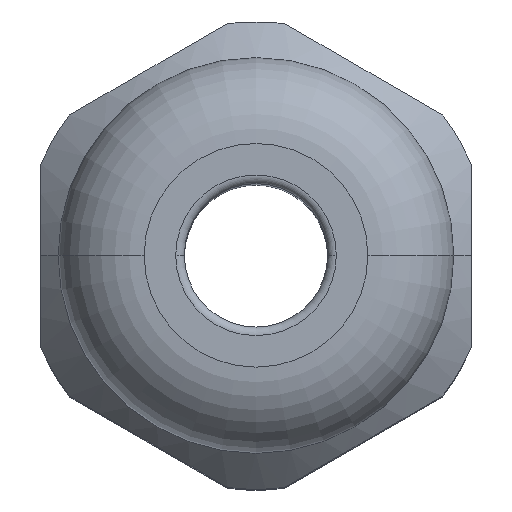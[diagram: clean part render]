
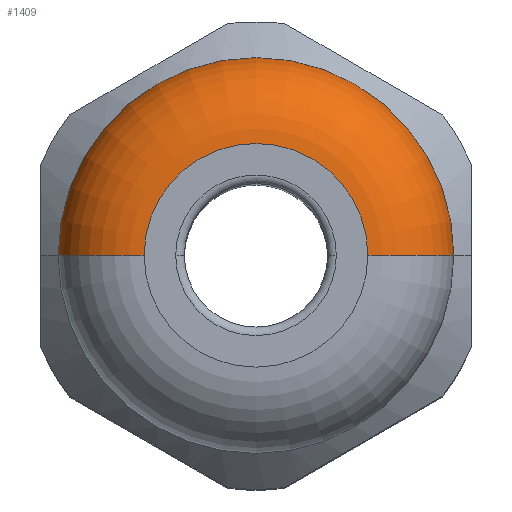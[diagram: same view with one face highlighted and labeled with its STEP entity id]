
A CAD part, top view. The second image highlights one B-rep face of the part: STEP entity #1409.
In plain terms, the highlighted toroidal (fillet/blend) face has major radius 3.9 mm and minor radius 3 mm.
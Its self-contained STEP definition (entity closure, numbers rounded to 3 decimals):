
#1329 = EDGE_CURVE ( 'NONE', #1402, #1414, #2265, .T. ) ;
#1338 = ORIENTED_EDGE ( 'NONE', *, *, #1329, .F. ) ;
#1399 = EDGE_LOOP ( 'NONE', ( #1400, #1410, #1412, #1338 ) ) ;
#1400 = ORIENTED_EDGE ( 'NONE', *, *, #1401, .T. ) ;
#1401 = EDGE_CURVE ( 'NONE', #1402, #1403, #2604, .T. ) ;
#1402 = VERTEX_POINT ( 'NONE', #2599 ) ;
#1403 = VERTEX_POINT ( 'NONE', #2598 ) ;
#1404 = VERTEX_POINT ( 'NONE', #2597 ) ;
#1409 = ADVANCED_FACE ( 'NONE', ( #2586 ), #2585, .T. ) ;
#1410 = ORIENTED_EDGE ( 'NONE', *, *, #1411, .T. ) ;
#1411 = EDGE_CURVE ( 'NONE', #1403, #1404, #2579, .T. ) ;
#1412 = ORIENTED_EDGE ( 'NONE', *, *, #1413, .F. ) ;
#1413 = EDGE_CURVE ( 'NONE', #1414, #1404, #2458, .T. ) ;
#1414 = VERTEX_POINT ( 'NONE', #2453 ) ;
#2261 = DIRECTION ( 'NONE',  ( 0., 0., -1. ) ) ;
#2262 = DIRECTION ( 'NONE',  ( 0., -1., 0. ) ) ;
#2263 = CARTESIAN_POINT ( 'NONE',  ( -3.9, 0., 28. ) ) ;
#2264 = AXIS2_PLACEMENT_3D ( 'NONE', #2263, #2262, #2261 ) ;
#2265 = CIRCLE ( 'NONE', #2264, 3. ) ;
#2453 = CARTESIAN_POINT ( 'NONE',  ( -6.9, 0., 28. ) ) ;
#2454 = DIRECTION ( 'NONE',  ( -1., 0., 0. ) ) ;
#2455 = DIRECTION ( 'NONE',  ( 0., 0., -1. ) ) ;
#2456 = CARTESIAN_POINT ( 'NONE',  ( 0., 0., 28. ) ) ;
#2457 = AXIS2_PLACEMENT_3D ( 'NONE', #2456, #2455, #2454 ) ;
#2458 = CIRCLE ( 'NONE', #2457, 6.9 ) ;
#2459 = DIRECTION ( 'NONE',  ( -1., 0., 0. ) ) ;
#2460 = DIRECTION ( 'NONE',  ( 0., 1., 0. ) ) ;
#2461 = AXIS2_PLACEMENT_3D ( 'NONE', #2584, #2460, #2459 ) ;
#2579 = CIRCLE ( 'NONE', #2461, 3. ) ;
#2580 = DIRECTION ( 'NONE',  ( -1., 0., 0. ) ) ;
#2581 = DIRECTION ( 'NONE',  ( 0., 0., -1. ) ) ;
#2582 = CARTESIAN_POINT ( 'NONE',  ( 0., 0., 28. ) ) ;
#2583 = AXIS2_PLACEMENT_3D ( 'NONE', #2582, #2581, #2580 ) ;
#2584 = CARTESIAN_POINT ( 'NONE',  ( 3.9, 0., 28. ) ) ;
#2585 = TOROIDAL_SURFACE ( 'NONE', #2583, 3.9, 3. ) ;
#2586 = FACE_OUTER_BOUND ( 'NONE', #1399, .T. ) ;
#2597 = CARTESIAN_POINT ( 'NONE',  ( 6.9, 0., 28. ) ) ;
#2598 = CARTESIAN_POINT ( 'NONE',  ( 3.9, 0., 31. ) ) ;
#2599 = CARTESIAN_POINT ( 'NONE',  ( -3.9, 0., 31. ) ) ;
#2600 = DIRECTION ( 'NONE',  ( -1., 0., 0. ) ) ;
#2601 = DIRECTION ( 'NONE',  ( 0., 0., -1. ) ) ;
#2602 = CARTESIAN_POINT ( 'NONE',  ( 0., 0., 31. ) ) ;
#2603 = AXIS2_PLACEMENT_3D ( 'NONE', #2602, #2601, #2600 ) ;
#2604 = CIRCLE ( 'NONE', #2603, 3.9 ) ;
